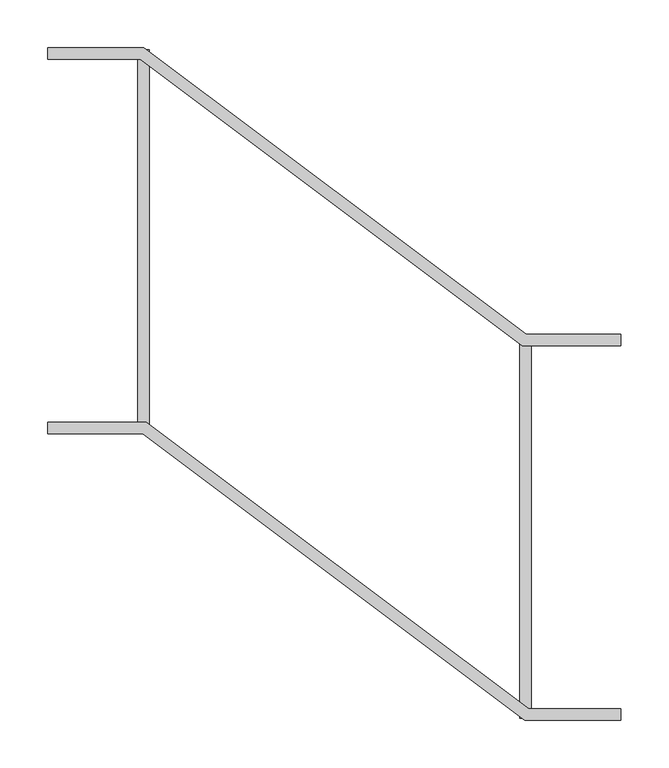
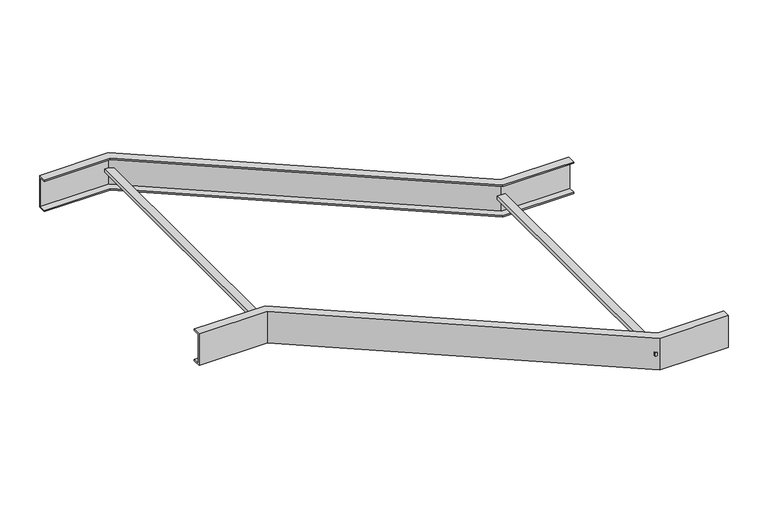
"""IFC4 building model written with IfcOpenShell, lengths in millimetres: cable carrier fitting geometry, BAKS_LD_CONN_Univarsal connector offset_LLUS : LLUSP_H45."""

from ifc_helpers import new_model, si_unit, frame, origin, place, context, project, spatial, polyline, outline, extrude, faceted_brep, source, transform, mapped, element, save


def cable_carrier_fitting_958e6ea8(model_context):
    return source(origin(), model_context, "Body", "SolidModel", [
        extrude(outline(polyline([(24.0, 200.0), (36.0, 200.0), (36.0, -200.0), (24.0, -200.0), (24.0, 200.0)])), frame((0.0, 0.0, -2.5), z_axis=(0.0, 0.0, 1.0), x_axis=(1.0, 0.0, 0.0)), (0.0, 0.0, 1.0), 5.0),
        extrude(outline(polyline([(436.0, -500.0), (424.0, -500.0), (424.0, -100.0), (436.0, -100.0), (436.0, -500.0)])), frame((0.0, 0.0, -2.5), z_axis=(0.0, 0.0, 1.0), x_axis=(1.0, 0.0, 0.0)), (0.0, 0.0, 1.0), 5.0),
        faceted_brep([(-70.0, -190.0, 24.5), (-70.0, -190.0, 22.5), (-70.0, -200.0, 22.5), (-70.0, -200.0, -22.5), (-70.0, -190.0, -22.5), (-70.0, -190.0, -24.5), (-70.0, -202.0, -24.5), (-70.0, -202.0, 24.5), (33.3333333, -190.0, 24.5), (33.3333333, -190.0, 22.5), (433.3333333, -490.0, 22.5), (530.0, -490.0, 22.5), (530.0, -500.0, 22.5), (430.0, -500.0, 22.5), (30.0, -200.0, 22.5), (30.0, -200.0, -22.5), (430.0, -500.0, -22.5), (530.0, -500.0, -22.5), (530.0, -490.0, -22.5), (433.3333333, -490.0, -22.5), (33.3333333, -190.0, -22.5), (33.3333333, -190.0, -24.5), (433.3333333, -490.0, -24.5), (530.0, -490.0, -24.5), (530.0, -502.0, -24.5), (429.3333333, -502.0, -24.5), (29.3333333, -202.0, -24.5), (29.3333333, -202.0, 24.5), (429.3333333, -502.0, 24.5), (530.0, -502.0, 24.5), (530.0, -490.0, 24.5), (433.3333333, -490.0, 24.5)], [[[0, 1, 2, 3, 4, 5, 6, 7]], [[1, 0, 8, 9]], [[2, 1, 9, 10, 11, 12, 13, 14]], [[3, 2, 14, 15]], [[4, 3, 15, 16, 17, 18, 19, 20]], [[5, 4, 20, 21]], [[6, 5, 21, 22, 23, 24, 25, 26]], [[7, 6, 26, 27]], [[0, 7, 27, 28, 29, 30, 31, 8]], [[9, 8, 31, 10]], [[15, 14, 13, 16]], [[21, 20, 19, 22]], [[27, 26, 25, 28]], [[30, 29, 24, 23, 18, 17, 12, 11]], [[10, 31, 30, 11]], [[16, 13, 12, 17]], [[22, 19, 18, 23]], [[28, 25, 24, 29]]]),
        faceted_brep([(530.0, -110.0, 24.5), (530.0, -110.0, 22.5), (530.0, -100.0, 22.5), (530.0, -100.0, -22.5), (530.0, -110.0, -22.5), (530.0, -110.0, -24.5), (530.0, -98.0, -24.5), (530.0, -98.0, 24.5), (426.6666667, -110.0, 24.5), (426.6666667, -110.0, 22.5), (26.6666667, 190.0, 22.5), (-70.0, 190.0, 22.5), (-70.0, 200.0, 22.5), (30.0, 200.0, 22.5), (430.0, -100.0, 22.5), (430.0, -100.0, -22.5), (30.0, 200.0, -22.5), (-70.0, 200.0, -22.5), (-70.0, 190.0, -22.5), (26.6666667, 190.0, -22.5), (426.6666667, -110.0, -22.5), (426.6666667, -110.0, -24.5), (26.6666667, 190.0, -24.5), (-70.0, 190.0, -24.5), (-70.0, 202.0, -24.5), (30.6666667, 202.0, -24.5), (430.6666667, -98.0, -24.5), (430.6666667, -98.0, 24.5), (30.6666667, 202.0, 24.5), (-70.0, 202.0, 24.5), (-70.0, 190.0, 24.5), (26.6666667, 190.0, 24.5)], [[[0, 1, 2, 3, 4, 5, 6, 7]], [[1, 0, 8, 9]], [[2, 1, 9, 10, 11, 12, 13, 14]], [[3, 2, 14, 15]], [[4, 3, 15, 16, 17, 18, 19, 20]], [[5, 4, 20, 21]], [[6, 5, 21, 22, 23, 24, 25, 26]], [[7, 6, 26, 27]], [[0, 7, 27, 28, 29, 30, 31, 8]], [[9, 8, 31, 10]], [[15, 14, 13, 16]], [[21, 20, 19, 22]], [[27, 26, 25, 28]], [[30, 29, 24, 23, 18, 17, 12, 11]], [[10, 31, 30, 11]], [[16, 13, 12, 17]], [[22, 19, 18, 23]], [[28, 25, 24, 29]]]),
    ])


if __name__ == "__main__":
    model = new_model("IFC4")
    model_context = context("Model", 3, world=origin())
    ifc_project = project(units=[si_unit("LENGTHUNIT", "METRE", prefix="MILLI")], contexts=[model_context])
    site = spatial("IfcSite", under=ifc_project)
    building = spatial("IfcBuilding", under=site)
    placement = place(None, origin())
    cable_carrier_fitting_shape = cable_carrier_fitting_958e6ea8(model_context)
    element("IfcCableCarrierFitting", 1, ObjectType="BAKS_LD_CONN_Univarsal connector offset_LLUS : LLUSP_H45", at=placement, inside=building, context=model_context, shape_type="MappedRepresentation", body=[
        mapped(cable_carrier_fitting_shape, transform((0.0, 0.0, 0.0), x_axis=(1.0, 0.0, 0.0), y_axis=(0.0, 1.0, 0.0), z_axis=(0.0, 0.0, 1.0))),
    ])
    save(model, "model.ifc")
